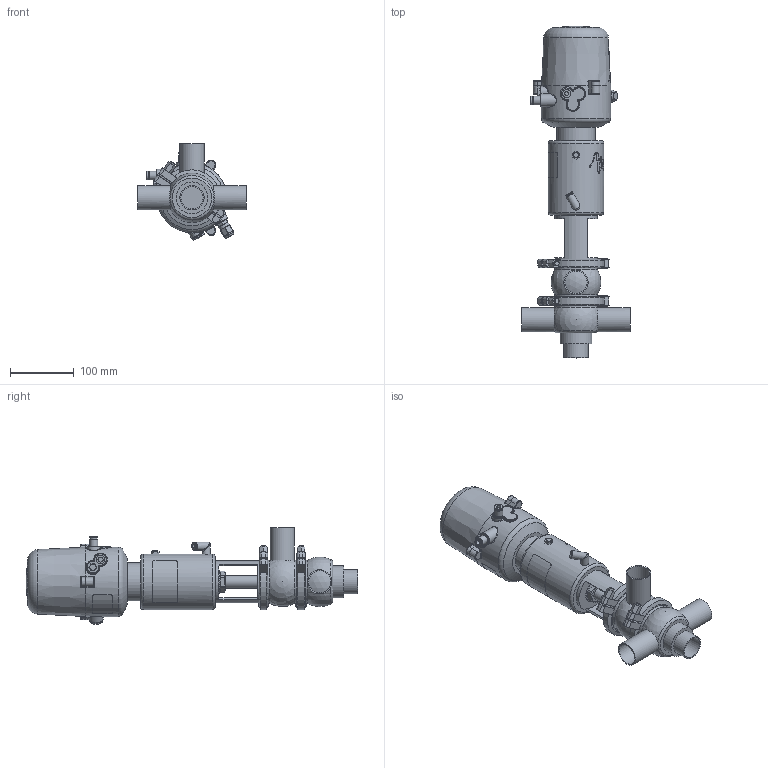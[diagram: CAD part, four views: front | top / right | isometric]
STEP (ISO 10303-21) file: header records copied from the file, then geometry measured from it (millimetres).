
FILE_DESCRIPTION (( 'STEP AP214' ), '1' );
FILE_NAME ('INNOVA K F W OD 1½ T1 AS NC & C-TOP S_10.240.16.0079.STEP', '2024-08-06T09:11:55', ( '' ), ( '' ), 'SwSTEP 2.0', 'SolidWorks 2023', '' );
FILE_SCHEMA (( 'AUTOMOTIVE_DESIGN' ));
Length unit declared in the file: millimetre
Products named in the file (8): INNOVA K F W OD 1½ T1 AS NC & C-TOP S_10.240.16.0079; 10.240.15.0006_OD 1½"; 10.240.15.0014_T1 AS P0; 10.240.15.0010_DN 040; 10.240.15.0017_Estàndard; 10.240.15.0003_OD 1½"; 10.426.15.0001_C-TOP S - 1 EV; 10.240.15.0001_DN 040
Assembly tree (8 placements, depth 2):
  INNOVA K F W OD 1½ T1 AS NC & C-TOP S_10.240.16.0079
    10.240.15.0006_OD 1½"
    10.240.15.0003_OD 1½"
    10.240.15.0010_DN 040
    10.240.15.0014_T1 AS P0
    10.240.15.0017_Estàndard
    10.426.15.0001_C-TOP S - 1 EV
    10.240.15.0001_DN 040  x2
Bounding box: 170 x 521.5 x 151.63 mm (x, y, z)
Volume: 2832911.6 mm3; surface area: 288198.4 mm2
Topology: 8 solids, 8 shells, 1178 faces, 2845 edges, 1894 vertices
Faces by surface type: plane 411, cylinder 358, cone 201, bspline 160, torus 39, sphere 9
Full cylindrical faces by diameter (mm): 0.371 x17, 0.512 x16, 0.658 x16, 0.795 x16, 0.94 x15, 1.098 x15, 1.241 x13, 1.382 x13, 1.523 x11, 1.669 x10, 2.201 x1, 4 x2, 5.5 x2, 6 x2, 6.15 x1, 8 x6, 8.5 x1, 10 x1, 10.5 x1, 11 x2, 12.5 x3, 13 x2, 13.5 x2, 16 x1, 17 x3, 20 x3, 20.5 x1, 22 x2, 31 x1, 34.5 x3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
Entity records: 57111 total; most frequent: CARTESIAN_POINT 26798, ORIENTED_EDGE 4530, DIRECTION 3673, EDGE_CURVE 2265, VERTEX_POINT 1612, EDGE_LOOP 1579, AXIS2_PLACEMENT_3D 1508, FACE_OUTER_BOUND 1339
